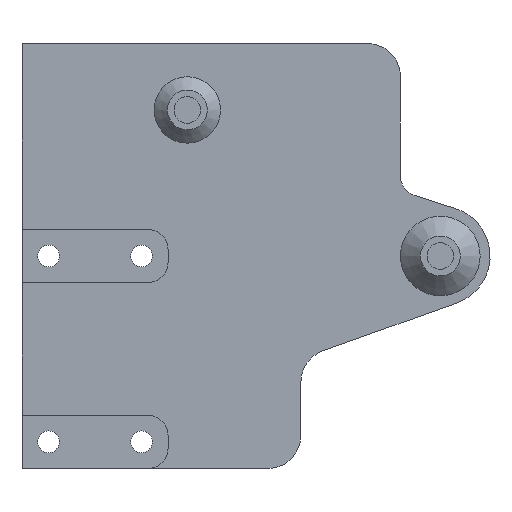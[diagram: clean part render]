
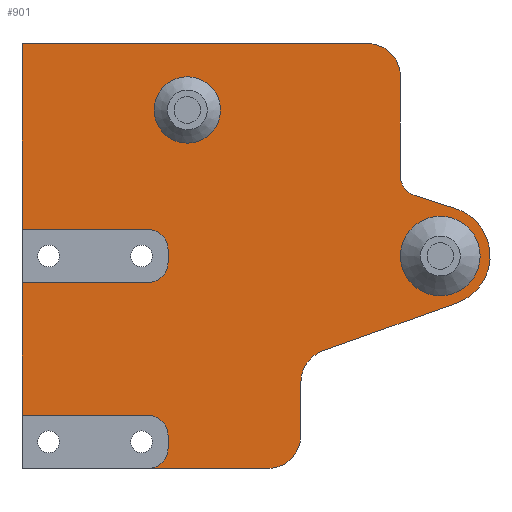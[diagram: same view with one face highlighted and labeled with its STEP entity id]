
A CAD part, left-side view. The second image highlights one B-rep face of the part: STEP entity #901.
In plain terms, the highlighted planar face has unit normal (-1, 0, 0).
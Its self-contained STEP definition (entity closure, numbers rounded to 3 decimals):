
#17=FACE_BOUND('',#190,.T.);
#18=FACE_BOUND('',#191,.T.);
#60=CIRCLE('',#966,5.);
#62=CIRCLE('',#970,5.);
#63=CIRCLE('',#973,7.5);
#64=CIRCLE('',#976,3.);
#66=CIRCLE('',#980,5.);
#68=CIRCLE('',#984,3.);
#70=CIRCLE('',#989,3.);
#72=CIRCLE('',#994,3.);
#74=CIRCLE('',#997,3.);
#79=CIRCLE('',#1006,6.);
#80=CIRCLE('',#1007,5.);
#135=FACE_OUTER_BOUND('',#189,.T.);
#189=EDGE_LOOP('',(#726,#727,#728,#729,#730,#731,#732,#733,#734,#735,#736,
#737,#738,#739,#740,#741,#742,#743,#744,#745,#746,#747));
#190=EDGE_LOOP('',(#748));
#191=EDGE_LOOP('',(#749));
#247=LINE('',#1391,#328);
#253=LINE('',#1404,#334);
#256=LINE('',#1414,#337);
#259=LINE('',#1422,#340);
#262=LINE('',#1430,#343);
#265=LINE('',#1440,#346);
#270=LINE('',#1455,#351);
#273=LINE('',#1463,#354);
#277=LINE('',#1473,#358);
#280=LINE('',#1481,#361);
#286=LINE('',#1508,#367);
#288=LINE('',#1511,#369);
#289=LINE('',#1512,#370);
#328=VECTOR('',#1111,10.);
#334=VECTOR('',#1123,10.);
#337=VECTOR('',#1134,10.);
#340=VECTOR('',#1143,10.);
#343=VECTOR('',#1152,10.);
#346=VECTOR('',#1163,10.);
#351=VECTOR('',#1176,10.);
#354=VECTOR('',#1181,10.);
#358=VECTOR('',#1193,10.);
#361=VECTOR('',#1198,10.);
#367=VECTOR('',#1230,10.);
#369=VECTOR('',#1234,10.);
#370=VECTOR('',#1235,10.);
#408=VERTEX_POINT('',#1388);
#409=VERTEX_POINT('',#1390);
#412=VERTEX_POINT('',#1398);
#413=VERTEX_POINT('',#1402);
#415=VERTEX_POINT('',#1408);
#416=VERTEX_POINT('',#1412);
#417=VERTEX_POINT('',#1416);
#418=VERTEX_POINT('',#1420);
#419=VERTEX_POINT('',#1424);
#420=VERTEX_POINT('',#1428);
#422=VERTEX_POINT('',#1434);
#423=VERTEX_POINT('',#1438);
#426=VERTEX_POINT('',#1445);
#427=VERTEX_POINT('',#1447);
#429=VERTEX_POINT('',#1453);
#432=VERTEX_POINT('',#1460);
#433=VERTEX_POINT('',#1462);
#435=VERTEX_POINT('',#1468);
#438=VERTEX_POINT('',#1478);
#439=VERTEX_POINT('',#1480);
#441=VERTEX_POINT('',#1489);
#447=VERTEX_POINT('',#1507);
#448=VERTEX_POINT('',#1513);
#449=VERTEX_POINT('',#1515);
#499=EDGE_CURVE('',#409,#408,#247,.T.);
#504=EDGE_CURVE('',#408,#412,#60,.T.);
#506=EDGE_CURVE('',#412,#413,#253,.T.);
#509=EDGE_CURVE('',#413,#415,#62,.T.);
#511=EDGE_CURVE('',#415,#416,#256,.T.);
#513=EDGE_CURVE('',#416,#417,#63,.T.);
#515=EDGE_CURVE('',#417,#418,#259,.T.);
#517=EDGE_CURVE('',#418,#419,#64,.T.);
#519=EDGE_CURVE('',#419,#420,#262,.T.);
#522=EDGE_CURVE('',#420,#422,#66,.T.);
#524=EDGE_CURVE('',#422,#423,#265,.T.);
#527=EDGE_CURVE('',#427,#426,#68,.T.);
#531=EDGE_CURVE('',#426,#429,#270,.T.);
#534=EDGE_CURVE('',#433,#432,#273,.T.);
#538=EDGE_CURVE('',#432,#435,#70,.T.);
#540=EDGE_CURVE('',#435,#427,#277,.T.);
#543=EDGE_CURVE('',#439,#438,#280,.T.);
#546=EDGE_CURVE('',#438,#409,#72,.T.);
#548=EDGE_CURVE('',#441,#439,#74,.T.);
#557=EDGE_CURVE('',#447,#441,#286,.T.);
#559=EDGE_CURVE('',#429,#447,#288,.T.);
#560=EDGE_CURVE('',#423,#433,#289,.T.);
#561=EDGE_CURVE('',#448,#448,#79,.T.);
#562=EDGE_CURVE('',#449,#449,#80,.T.);
#726=ORIENTED_EDGE('',*,*,#534,.T.);
#727=ORIENTED_EDGE('',*,*,#538,.T.);
#728=ORIENTED_EDGE('',*,*,#540,.T.);
#729=ORIENTED_EDGE('',*,*,#527,.T.);
#730=ORIENTED_EDGE('',*,*,#531,.T.);
#731=ORIENTED_EDGE('',*,*,#559,.T.);
#732=ORIENTED_EDGE('',*,*,#557,.T.);
#733=ORIENTED_EDGE('',*,*,#548,.T.);
#734=ORIENTED_EDGE('',*,*,#543,.T.);
#735=ORIENTED_EDGE('',*,*,#546,.T.);
#736=ORIENTED_EDGE('',*,*,#499,.T.);
#737=ORIENTED_EDGE('',*,*,#504,.T.);
#738=ORIENTED_EDGE('',*,*,#506,.T.);
#739=ORIENTED_EDGE('',*,*,#509,.T.);
#740=ORIENTED_EDGE('',*,*,#511,.T.);
#741=ORIENTED_EDGE('',*,*,#513,.T.);
#742=ORIENTED_EDGE('',*,*,#515,.T.);
#743=ORIENTED_EDGE('',*,*,#517,.T.);
#744=ORIENTED_EDGE('',*,*,#519,.T.);
#745=ORIENTED_EDGE('',*,*,#522,.T.);
#746=ORIENTED_EDGE('',*,*,#524,.T.);
#747=ORIENTED_EDGE('',*,*,#560,.T.);
#748=ORIENTED_EDGE('',*,*,#561,.T.);
#749=ORIENTED_EDGE('',*,*,#562,.T.);
#859=PLANE('',#1005);
#901=ADVANCED_FACE('',(#135,#17,#18),#859,.F.);
#966=AXIS2_PLACEMENT_3D('',#1400,#1118,#1119);
#970=AXIS2_PLACEMENT_3D('',#1410,#1129,#1130);
#973=AXIS2_PLACEMENT_3D('',#1418,#1138,#1139);
#976=AXIS2_PLACEMENT_3D('',#1426,#1147,#1148);
#980=AXIS2_PLACEMENT_3D('',#1436,#1158,#1159);
#984=AXIS2_PLACEMENT_3D('',#1448,#1169,#1170);
#989=AXIS2_PLACEMENT_3D('',#1470,#1188,#1189);
#994=AXIS2_PLACEMENT_3D('',#1485,#1204,#1205);
#997=AXIS2_PLACEMENT_3D('',#1490,#1210,#1211);
#1005=AXIS2_PLACEMENT_3D('',#1510,#1232,#1233);
#1006=AXIS2_PLACEMENT_3D('',#1514,#1236,#1237);
#1007=AXIS2_PLACEMENT_3D('',#1516,#1238,#1239);
#1111=DIRECTION('',(0.,-1.,0.));
#1118=DIRECTION('center_axis',(-1.,0.,0.));
#1119=DIRECTION('ref_axis',(0.,-1.,0.));
#1123=DIRECTION('',(0.,0.,1.));
#1129=DIRECTION('center_axis',(1.,0.,0.));
#1130=DIRECTION('ref_axis',(0.,-1.,0.));
#1134=DIRECTION('',(0.,-0.942,0.337));
#1138=DIRECTION('center_axis',(-1.,0.,0.));
#1139=DIRECTION('ref_axis',(0.,1.,0.));
#1143=DIRECTION('',(0.,0.952,0.307));
#1147=DIRECTION('center_axis',(1.,0.,0.));
#1148=DIRECTION('ref_axis',(0.,-0.307,0.952));
#1152=DIRECTION('',(0.,0.,1.));
#1158=DIRECTION('center_axis',(-1.,0.,0.));
#1159=DIRECTION('ref_axis',(0.,0.,1.));
#1163=DIRECTION('',(0.,1.,0.));
#1169=DIRECTION('center_axis',(1.,0.,0.));
#1170=DIRECTION('ref_axis',(0.,-1.,0.));
#1176=DIRECTION('',(0.,1.,0.));
#1181=DIRECTION('',(0.,-1.,0.));
#1188=DIRECTION('center_axis',(1.,0.,0.));
#1189=DIRECTION('ref_axis',(0.,0.,1.));
#1193=DIRECTION('',(0.,0.,-1.));
#1198=DIRECTION('',(0.,0.,-1.));
#1204=DIRECTION('center_axis',(1.,0.,0.));
#1205=DIRECTION('ref_axis',(0.,-1.,0.));
#1210=DIRECTION('center_axis',(1.,0.,0.));
#1211=DIRECTION('ref_axis',(0.,0.,1.));
#1230=DIRECTION('',(0.,-1.,0.));
#1232=DIRECTION('center_axis',(1.,0.,0.));
#1233=DIRECTION('ref_axis',(0.,0.,-1.));
#1234=DIRECTION('',(0.,0.,-1.));
#1235=DIRECTION('',(0.,0.,-1.));
#1236=DIRECTION('center_axis',(1.,0.,0.));
#1237=DIRECTION('ref_axis',(0.,1.,0.));
#1238=DIRECTION('center_axis',(1.,0.,0.));
#1239=DIRECTION('ref_axis',(0.,1.,0.));
#1388=CARTESIAN_POINT('',(20.,-37.,-32.));
#1390=CARTESIAN_POINT('',(20.,-19.,-32.));
#1391=CARTESIAN_POINT('',(20.,-36.125,-32.));
#1398=CARTESIAN_POINT('',(20.,-42.,-27.));
#1400=CARTESIAN_POINT('Origin',(20.,-37.,-27.));
#1402=CARTESIAN_POINT('',(20.,-42.,-19.));
#1404=CARTESIAN_POINT('',(20.,-42.,-9.5));
#1408=CARTESIAN_POINT('',(20.,-45.316,-14.292));
#1410=CARTESIAN_POINT('Origin',(20.,-47.,-19.));
#1412=CARTESIAN_POINT('',(20.,-65.526,-7.062));
#1414=CARTESIAN_POINT('',(20.,-53.226,-11.462));
#1416=CARTESIAN_POINT('',(20.,-65.302,7.138));
#1418=CARTESIAN_POINT('Origin',(20.,-63.,0.));
#1420=CARTESIAN_POINT('',(20.,-59.079,9.145));
#1422=CARTESIAN_POINT('',(20.,-49.623,12.194));
#1424=CARTESIAN_POINT('',(20.,-57.,12.));
#1426=CARTESIAN_POINT('Origin',(20.,-60.,12.));
#1428=CARTESIAN_POINT('',(20.,-57.,27.));
#1430=CARTESIAN_POINT('',(20.,-57.,13.5));
#1434=CARTESIAN_POINT('',(20.,-52.,32.));
#1436=CARTESIAN_POINT('Origin',(20.,-52.,27.));
#1438=CARTESIAN_POINT('',(20.,0.,32.));
#1440=CARTESIAN_POINT('',(20.,-17.625,32.));
#1445=CARTESIAN_POINT('',(20.,-19.,-4.));
#1447=CARTESIAN_POINT('',(20.,-22.,-1.));
#1448=CARTESIAN_POINT('Origin',(20.,-19.,-1.));
#1453=CARTESIAN_POINT('',(20.,0.,-4.));
#1455=CARTESIAN_POINT('',(20.,-17.625,-4.));
#1460=CARTESIAN_POINT('',(20.,-19.,4.));
#1462=CARTESIAN_POINT('',(20.,0.,4.));
#1463=CARTESIAN_POINT('',(20.,-27.125,4.));
#1468=CARTESIAN_POINT('',(20.,-22.,1.));
#1470=CARTESIAN_POINT('Origin',(20.,-19.,1.));
#1473=CARTESIAN_POINT('',(20.,-22.,-0.5));
#1478=CARTESIAN_POINT('',(20.,-22.,-29.));
#1480=CARTESIAN_POINT('',(20.,-22.,-27.));
#1481=CARTESIAN_POINT('',(20.,-22.,-14.5));
#1485=CARTESIAN_POINT('Origin',(20.,-19.,-29.));
#1489=CARTESIAN_POINT('',(20.,-19.,-24.));
#1490=CARTESIAN_POINT('Origin',(20.,-19.,-27.));
#1507=CARTESIAN_POINT('',(20.,0.,-24.));
#1508=CARTESIAN_POINT('',(20.,-27.125,-24.));
#1510=CARTESIAN_POINT('Origin',(20.,-35.25,0.));
#1511=CARTESIAN_POINT('',(20.,0.,-16.));
#1512=CARTESIAN_POINT('',(20.,0.,-16.));
#1513=CARTESIAN_POINT('',(20.,-69.,0.));
#1514=CARTESIAN_POINT('Origin',(20.,-63.,0.));
#1515=CARTESIAN_POINT('',(20.,-29.895,22.));
#1516=CARTESIAN_POINT('Origin',(20.,-24.895,22.));
